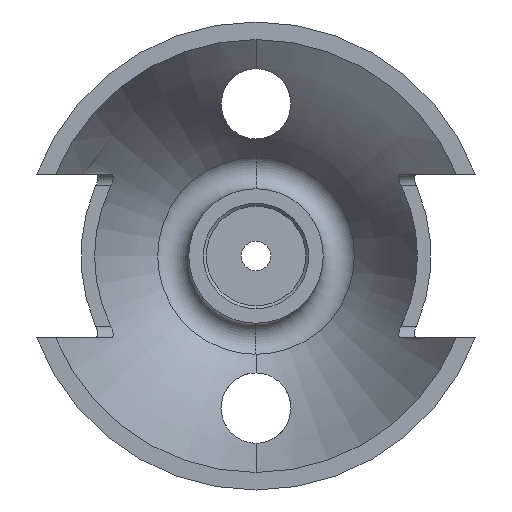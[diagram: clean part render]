
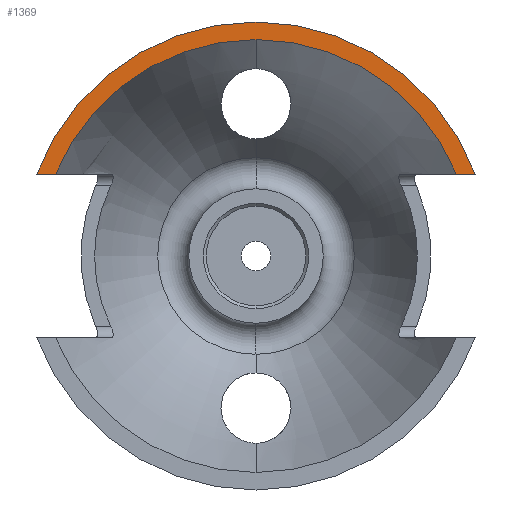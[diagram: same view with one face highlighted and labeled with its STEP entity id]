
A CAD part, front view. The second image highlights one B-rep face of the part: STEP entity #1369.
In plain terms, the highlighted planar face has unit normal (0, -1, 0).
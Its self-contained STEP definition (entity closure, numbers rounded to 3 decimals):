
#73=CARTESIAN_POINT('',(0.,0.,0.));
#74=DIRECTION('',(0.,-1.,0.));
#75=DIRECTION('',(0.937,0.,0.35));
#76=AXIS2_PLACEMENT_3D('',#73,#74,#75);
#186=CARTESIAN_POINT('',(0.,0.,0.));
#187=DIRECTION('',(0.,1.,0.));
#188=DIRECTION('',(-0.937,0.,0.35));
#189=AXIS2_PLACEMENT_3D('',#186,#187,#188);
#616=DIRECTION('',(-1.,0.,0.));
#617=VECTOR('',#616,1.61);
#618=CARTESIAN_POINT('',(18.735,0.,7.));
#619=LINE('',#618,#617);
#620=CARTESIAN_POINT('',(0.,0.,0.));
#621=DIRECTION('',(0.,-1.,0.));
#622=DIRECTION('',(0.926,0.,0.378));
#623=AXIS2_PLACEMENT_3D('',#620,#621,#622);
#625=CARTESIAN_POINT('',(0.,0.,0.));
#626=DIRECTION('',(0.,1.,0.));
#627=DIRECTION('',(-0.926,0.,0.378));
#628=AXIS2_PLACEMENT_3D('',#625,#626,#627);
#630=DIRECTION('',(-1.,0.,0.));
#631=VECTOR('',#630,1.61);
#632=CARTESIAN_POINT('',(-17.125,0.,7.));
#633=LINE('',#632,#631);
#800=CARTESIAN_POINT('',(18.735,0.,7.));
#801=CARTESIAN_POINT('',(17.125,0.,7.));
#802=VERTEX_POINT('',#800);
#803=VERTEX_POINT('',#801);
#804=CARTESIAN_POINT('',(-17.125,0.,7.));
#805=CARTESIAN_POINT('',(-18.735,0.,7.));
#806=VERTEX_POINT('',#804);
#807=VERTEX_POINT('',#805);
#818=CARTESIAN_POINT('',(0.,0.,20.));
#819=VERTEX_POINT('',#818);
#822=CARTESIAN_POINT('',(0.,0.,18.5));
#823=VERTEX_POINT('',#822);
#1354=CARTESIAN_POINT('',(0.,0.,0.));
#1355=DIRECTION('',(0.,-1.,0.));
#1356=DIRECTION('',(0.,0.,1.));
#1357=AXIS2_PLACEMENT_3D('',#1354,#1355,#1356);
#1358=PLANE('',#1357);
#1360=ORIENTED_EDGE('',*,*,#1359,.T.);
#1361=ORIENTED_EDGE('',*,*,#1150,.T.);
#1362=ORIENTED_EDGE('',*,*,#1083,.F.);
#1364=ORIENTED_EDGE('',*,*,#1363,.T.);
#1365=ORIENTED_EDGE('',*,*,#1001,.T.);
#1366=ORIENTED_EDGE('',*,*,#915,.F.);
#1367=EDGE_LOOP('',(#1360,#1361,#1362,#1364,#1365,#1366));
#1368=FACE_OUTER_BOUND('',#1367,.F.);
#77=CIRCLE('',#76,20.);
#190=CIRCLE('',#189,20.);
#624=CIRCLE('',#623,18.5);
#629=CIRCLE('',#628,18.5);
#915=EDGE_CURVE('',#802,#819,#77,.T.);
#1001=EDGE_CURVE('',#807,#819,#190,.T.);
#1083=EDGE_CURVE('',#806,#823,#629,.T.);
#1150=EDGE_CURVE('',#803,#823,#624,.T.);
#1359=EDGE_CURVE('',#802,#803,#619,.T.);
#1363=EDGE_CURVE('',#806,#807,#633,.T.);
#1369=ADVANCED_FACE('',(#1368),#1358,.T.);
